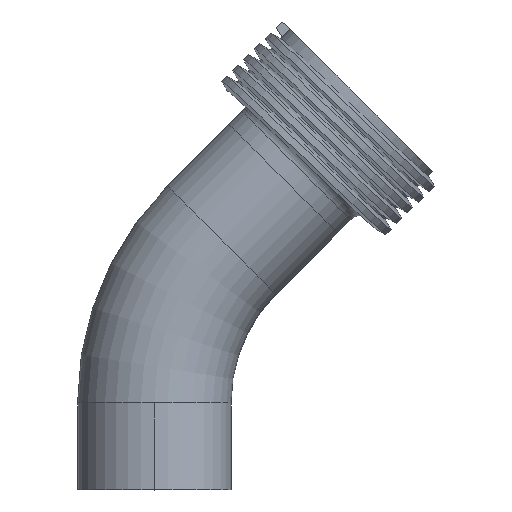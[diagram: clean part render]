
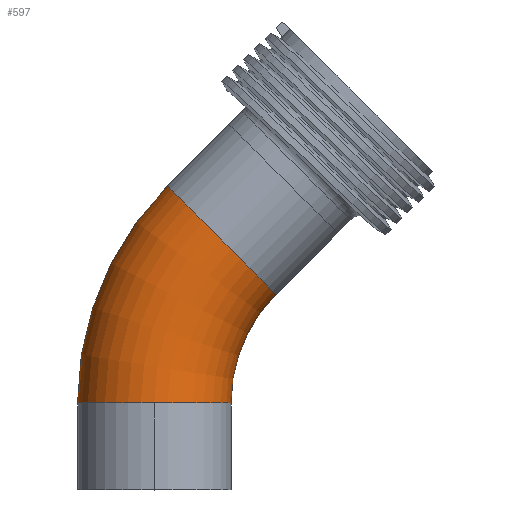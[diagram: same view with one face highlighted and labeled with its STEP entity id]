
A CAD part, top view. The second image highlights one B-rep face of the part: STEP entity #597.
In plain terms, the highlighted toroidal (fillet/blend) face has major radius 38.1 mm and minor radius 12.7 mm.
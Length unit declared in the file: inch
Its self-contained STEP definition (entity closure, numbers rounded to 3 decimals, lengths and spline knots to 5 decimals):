
#5 = FACE_OUTER_BOUND ( 'NONE', #780, .T. ) ;
#62 = EDGE_CURVE ( 'NONE', #1338, #1530, #426, .T. ) ;
#95 = CIRCLE ( 'NONE', #1841, 0.5 ) ;
#262 = DIRECTION ( 'NONE',  ( 0.707, 0.707, 0. ) ) ;
#306 = ORIENTED_EDGE ( 'NONE', *, *, #62, .T. ) ;
#342 = AXIS2_PLACEMENT_3D ( 'NONE', #1690, #1786, #2251 ) ;
#426 = CIRCLE ( 'NONE', #1966, 0.5 ) ;
#433 = EDGE_CURVE ( 'NONE', #893, #1338, #2074, .T. ) ;
#435 = DIRECTION ( 'NONE',  ( 0., 0., 1. ) ) ;
#461 = DIRECTION ( 'NONE',  ( 0., 0., 1. ) ) ;
#492 = CARTESIAN_POINT ( 'NONE',  ( 0., 0.566, 0.5 ) ) ;
#499 = EDGE_CURVE ( 'NONE', #893, #2035, #95, .T. ) ;
#532 = CARTESIAN_POINT ( 'NONE',  ( -0.5, 0.566, 0. ) ) ;
#597 = ADVANCED_FACE ( 'NONE', ( #5 ), #1470, .T. ) ;
#654 = ORIENTED_EDGE ( 'NONE', *, *, #433, .T. ) ;
#748 = CARTESIAN_POINT ( 'NONE',  ( 0.08579, 1.98021, 0. ) ) ;
#780 = EDGE_LOOP ( 'NONE', ( #1662, #654, #306, #888, #1712 ) ) ;
#781 = CARTESIAN_POINT ( 'NONE',  ( 0., 0.566, 0. ) ) ;
#883 = CARTESIAN_POINT ( 'NONE',  ( 0.5, 0.566, 0. ) ) ;
#888 = ORIENTED_EDGE ( 'NONE', *, *, #2128, .T. ) ;
#893 = VERTEX_POINT ( 'NONE', #748 ) ;
#939 = CARTESIAN_POINT ( 'NONE',  ( 0., 0.566, 0. ) ) ;
#973 = DIRECTION ( 'NONE',  ( -1., 0., 0. ) ) ;
#1015 = EDGE_CURVE ( 'NONE', #2035, #2445, #1881, .T. ) ;
#1052 = CARTESIAN_POINT ( 'NONE',  ( 0.79289, 1.27311, 0. ) ) ;
#1137 = CIRCLE ( 'NONE', #1866, 0.5 ) ;
#1290 = DIRECTION ( 'NONE',  ( -1., 0., 0. ) ) ;
#1338 = VERTEX_POINT ( 'NONE', #532 ) ;
#1394 = CARTESIAN_POINT ( 'NONE',  ( 0.43934, 1.62666, 0. ) ) ;
#1463 = AXIS2_PLACEMENT_3D ( 'NONE', #1979, #461, #1785 ) ;
#1470 = TOROIDAL_SURFACE ( 'NONE', #1463, 1.5, 0.5 ) ;
#1530 = VERTEX_POINT ( 'NONE', #492 ) ;
#1566 = CARTESIAN_POINT ( 'NONE',  ( 1.5, 0.566, 0. ) ) ;
#1580 = DIRECTION ( 'NONE',  ( -0.707, 0.707, 0. ) ) ;
#1652 = AXIS2_PLACEMENT_3D ( 'NONE', #1566, #435, #1759 ) ;
#1662 = ORIENTED_EDGE ( 'NONE', *, *, #499, .F. ) ;
#1690 = CARTESIAN_POINT ( 'NONE',  ( 1.5, 0.566, 0. ) ) ;
#1712 = ORIENTED_EDGE ( 'NONE', *, *, #1015, .F. ) ;
#1759 = DIRECTION ( 'NONE',  ( 1., 0., 0. ) ) ;
#1785 = DIRECTION ( 'NONE',  ( 1., 0., 0. ) ) ;
#1786 = DIRECTION ( 'NONE',  ( 0., 0., 1. ) ) ;
#1841 = AXIS2_PLACEMENT_3D ( 'NONE', #1394, #262, #1580 ) ;
#1866 = AXIS2_PLACEMENT_3D ( 'NONE', #781, #2100, #973 ) ;
#1881 = CIRCLE ( 'NONE', #342, 1. ) ;
#1966 = AXIS2_PLACEMENT_3D ( 'NONE', #939, #2247, #1290 ) ;
#1979 = CARTESIAN_POINT ( 'NONE',  ( 1.5, 0.566, 0. ) ) ;
#2035 = VERTEX_POINT ( 'NONE', #1052 ) ;
#2074 = CIRCLE ( 'NONE', #1652, 2. ) ;
#2100 = DIRECTION ( 'NONE',  ( 0., 1., 0. ) ) ;
#2128 = EDGE_CURVE ( 'NONE', #1530, #2445, #1137, .T. ) ;
#2247 = DIRECTION ( 'NONE',  ( 0., 1., 0. ) ) ;
#2251 = DIRECTION ( 'NONE',  ( 1., 0., 0. ) ) ;
#2445 = VERTEX_POINT ( 'NONE', #883 ) ;
